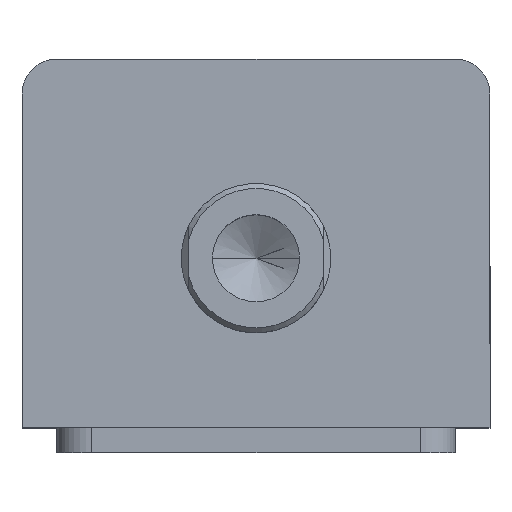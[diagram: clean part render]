
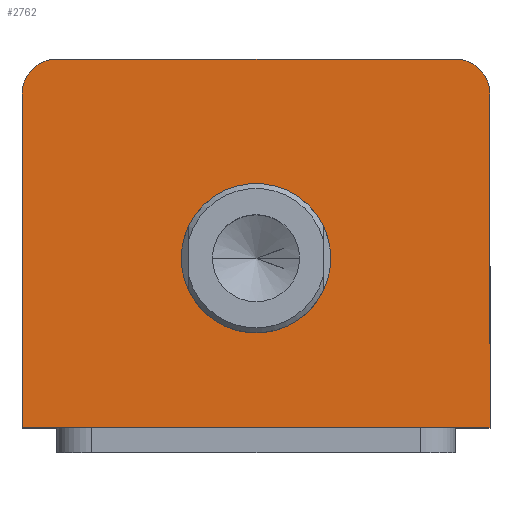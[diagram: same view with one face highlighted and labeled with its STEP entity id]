
A CAD part, top view. The second image highlights one B-rep face of the part: STEP entity #2762.
In plain terms, the highlighted planar face has unit normal (0, 0, 1).
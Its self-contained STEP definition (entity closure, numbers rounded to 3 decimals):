
#42 = VERTEX_POINT ( 'NONE', #1273 ) ;
#67 = VERTEX_POINT ( 'NONE', #1241 ) ;
#79 = VERTEX_POINT ( 'NONE', #1229 ) ;
#87 = VERTEX_POINT ( 'NONE', #1221 ) ;
#97 = ORIENTED_EDGE ( 'NONE', *, *, #2681, .T. ) ;
#121 = ORIENTED_EDGE ( 'NONE', *, *, #2632, .T. ) ;
#202 = ORIENTED_EDGE ( 'NONE', *, *, #1052, .F. ) ;
#275 = ORIENTED_EDGE ( 'NONE', *, *, #1099, .F. ) ;
#288 = ORIENTED_EDGE ( 'NONE', *, *, #2690, .T. ) ;
#289 = ORIENTED_EDGE ( 'NONE', *, *, #2669, .T. ) ;
#317 = ORIENTED_EDGE ( 'NONE', *, *, #2673, .T. ) ;
#324 = ORIENTED_EDGE ( 'NONE', *, *, #2651, .T. ) ;
#600 = CIRCLE ( 'NONE', #2593, 15. ) ;
#682 = CIRCLE ( 'NONE', #2361, 15. ) ;
#752 = LINE ( 'NONE', #2266, #759 ) ;
#759 = VECTOR ( 'NONE', #2222, 1000. ) ;
#789 = LINE ( 'NONE', #2292, #792 ) ;
#792 = VECTOR ( 'NONE', #2303, 1000. ) ;
#824 = LINE ( 'NONE', #2205, #827 ) ;
#827 = VECTOR ( 'NONE', #2196, 1000. ) ;
#828 = CIRCLE ( 'NONE', #2324, 7. ) ;
#838 = CIRCLE ( 'NONE', #1920, 7. ) ;
#850 = LINE ( 'NONE', #1993, #853 ) ;
#853 = VECTOR ( 'NONE', #1990, 1000. ) ;
#934 = VERTEX_POINT ( 'NONE', #1260 ) ;
#941 = VERTEX_POINT ( 'NONE', #1199 ) ;
#958 = VERTEX_POINT ( 'NONE', #1182 ) ;
#1014 = VERTEX_POINT ( 'NONE', #1480 ) ;
#1037 = EDGE_LOOP ( 'NONE', ( #202, #275 ) ) ;
#1052 = EDGE_CURVE ( 'NONE', #87, #1014, #600, .T. ) ;
#1099 = EDGE_CURVE ( 'NONE', #1014, #87, #682, .T. ) ;
#1182 = CARTESIAN_POINT ( 'NONE',  ( 40., 37., 90. ) ) ;
#1199 = CARTESIAN_POINT ( 'NONE',  ( 47., -37., 90. ) ) ;
#1221 = CARTESIAN_POINT ( 'NONE',  ( 15., -3., 90. ) ) ;
#1229 = CARTESIAN_POINT ( 'NONE',  ( -40., 37., 90. ) ) ;
#1241 = CARTESIAN_POINT ( 'NONE',  ( -47., 30., 90. ) ) ;
#1260 = CARTESIAN_POINT ( 'NONE',  ( 47., 30., 90. ) ) ;
#1273 = CARTESIAN_POINT ( 'NONE',  ( -47., -37., 90. ) ) ;
#1280 = EDGE_LOOP ( 'NONE', ( #324, #97, #288, #121, #289, #317 ) ) ;
#1480 = CARTESIAN_POINT ( 'NONE',  ( -15., -3., 90. ) ) ;
#1523 = DIRECTION ( 'NONE',  ( 1., 0., 0. ) ) ;
#1543 = DIRECTION ( 'NONE',  ( 0., 0., 1. ) ) ;
#1544 = CARTESIAN_POINT ( 'NONE',  ( 0., -3., 90. ) ) ;
#1553 = DIRECTION ( 'NONE',  ( 1., 0., 0. ) ) ;
#1555 = DIRECTION ( 'NONE',  ( 0., 0., 1. ) ) ;
#1556 = CARTESIAN_POINT ( 'NONE',  ( 0., -3., 90. ) ) ;
#1800 = AXIS2_PLACEMENT_3D ( 'NONE', #2501, #2491, #2488 ) ;
#1920 = AXIS2_PLACEMENT_3D ( 'NONE', #2050, #2046, #2044 ) ;
#1990 = DIRECTION ( 'NONE',  ( 0., -1., 0. ) ) ;
#1993 = CARTESIAN_POINT ( 'NONE',  ( -47., 37., 90. ) ) ;
#2044 = DIRECTION ( 'NONE',  ( 1., 0., 0. ) ) ;
#2046 = DIRECTION ( 'NONE',  ( 0., 0., 1. ) ) ;
#2050 = CARTESIAN_POINT ( 'NONE',  ( -40., 30., 90. ) ) ;
#2118 = DIRECTION ( 'NONE',  ( 1., 0., 0. ) ) ;
#2121 = DIRECTION ( 'NONE',  ( 0., 0., 1. ) ) ;
#2125 = CARTESIAN_POINT ( 'NONE',  ( 40., 30., 90. ) ) ;
#2196 = DIRECTION ( 'NONE',  ( 0., 1., 0. ) ) ;
#2205 = CARTESIAN_POINT ( 'NONE',  ( 47., 37., 90. ) ) ;
#2222 = DIRECTION ( 'NONE',  ( 1., 0., 0. ) ) ;
#2266 = CARTESIAN_POINT ( 'NONE',  ( -47., -37., 90. ) ) ;
#2292 = CARTESIAN_POINT ( 'NONE',  ( -47., 37., 90. ) ) ;
#2303 = DIRECTION ( 'NONE',  ( -1., 0., 0. ) ) ;
#2324 = AXIS2_PLACEMENT_3D ( 'NONE', #2125, #2121, #2118 ) ;
#2361 = AXIS2_PLACEMENT_3D ( 'NONE', #1556, #1555, #1553 ) ;
#2488 = DIRECTION ( 'NONE',  ( 1., 0., 0. ) ) ;
#2491 = DIRECTION ( 'NONE',  ( 0., 0., 1. ) ) ;
#2501 = CARTESIAN_POINT ( 'NONE',  ( 0., 0., 90. ) ) ;
#2509 = PLANE ( 'NONE',  #1800 ) ;
#2593 = AXIS2_PLACEMENT_3D ( 'NONE', #1544, #1543, #1523 ) ;
#2632 = EDGE_CURVE ( 'NONE', #42, #941, #752, .T. ) ;
#2651 = EDGE_CURVE ( 'NONE', #958, #79, #789, .T. ) ;
#2669 = EDGE_CURVE ( 'NONE', #941, #934, #824, .T. ) ;
#2673 = EDGE_CURVE ( 'NONE', #934, #958, #828, .T. ) ;
#2681 = EDGE_CURVE ( 'NONE', #79, #67, #838, .T. ) ;
#2690 = EDGE_CURVE ( 'NONE', #67, #42, #850, .T. ) ;
#2762 = ADVANCED_FACE ( 'NONE', ( #2824, #2827 ), #2509, .T. ) ;
#2824 = FACE_BOUND ( 'NONE', #1037, .T. ) ;
#2827 = FACE_OUTER_BOUND ( 'NONE', #1280, .T. ) ;
